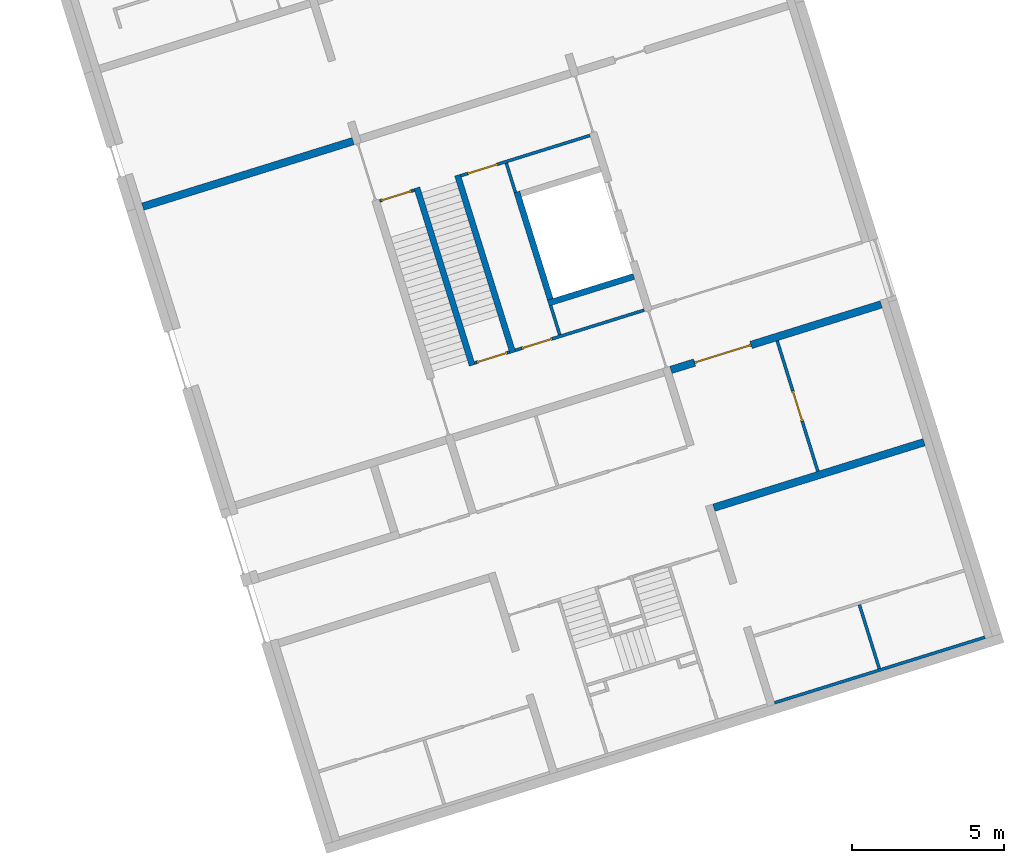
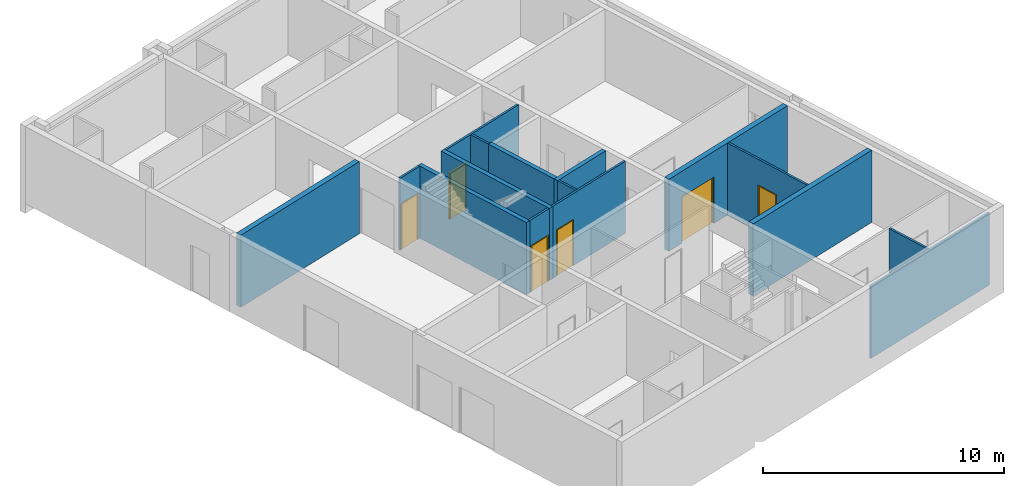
# One storey, part 3 of 10: 16 walls, 6 doors, 10 openings.
"""IFC4 building model written with IfcOpenShell, lengths in metres."""

import ifcopenshell
import ifcopenshell.guid

model = None  # the IFC model being written
_history = None  # IfcOwnerHistory: only IFC2X3 demands one
_inside = {}  # id of a spatial element -> (the spatial element, [elements in it])
_under = {}  # id of a project, library or spatial element -> (it, [spatial elements below it])
_declared = {}  # id of a project -> (the project, [libraries it declares])
_typed = {}  # id of a type object -> (the type object, [elements of that type])
_made_of = {}  # id of a material, layer set ... -> (it, [elements and type objects made of it])


def new_model(schema):
    """Start an empty IFC model of exactly this schema.

    Asked for "IFC4X3", IfcOpenShell would pick the latest addendum, in which some entities
    have other attributes; the version numbers below select the first issue.
    IFC2X3 requires an IfcOwnerHistory on every rooted entity: one is made here for all.
    """
    global model, _history
    if schema == "IFC4X3":
        model = ifcopenshell.file(schema_version=(4, 3, 0, 0))
    else:
        model = ifcopenshell.file(schema=schema)
    _inside.clear()
    _under.clear()
    _declared.clear()
    _typed.clear()
    _made_of.clear()
    _history = None
    if model.schema == "IFC2X3":
        org = make("IfcOrganization", Name="unknown")
        user = make(
            "IfcPersonAndOrganization",
            ThePerson=make("IfcPerson", FamilyName="unknown"),
            TheOrganization=org,
        )
        app = make(
            "IfcApplication",
            ApplicationDeveloper=org,
            Version="unknown",
            ApplicationFullName="unknown",
            ApplicationIdentifier="unknown",
        )
        _history = make(
            "IfcOwnerHistory",
            OwningUser=user,
            OwningApplication=app,
            ChangeAction="ADDED",
            CreationDate=0,
        )
    return model


def make(cls, **values):
    """One entity of the class cls with the attributes given. An attribute that is None is left unset."""
    return model.create_entity(
        cls, **{name: value for name, value in values.items() if value is not None}
    )


def entity(cls, *values):
    """Any entity or typed value of the class cls, its attributes in the order of the schema. None: left unset."""
    e = model.create_entity(cls)
    for i, value in enumerate(values):
        if value is not None:
            e[i] = value
    return e


def rooted(cls, **values):
    """An entity with a GlobalId (a new one), such as an element, a storey or a relation."""
    return make(cls, GlobalId=ifcopenshell.guid.new(), OwnerHistory=_history, **values)


def si_unit(unit_type, name, prefix=None):
    """IfcSIUnit, for example si_unit("LENGTHUNIT", "METRE", prefix="MILLI")."""
    return make("IfcSIUnit", UnitType=unit_type, Prefix=prefix, Name=name)


def converted_unit(unit_type, name, factor, base, dimensions=None, offset=None):
    """IfcConversionBasedUnit, such as the inch: factor (a typed value) times the base unit."""
    return make(
        "IfcConversionBasedUnit"
        if offset is None
        else "IfcConversionBasedUnitWithOffset",
        ConversionOffset=offset,
        Dimensions=None
        if dimensions is None
        else entity("IfcDimensionalExponents", *dimensions),
        UnitType=unit_type,
        Name=name,
        ConversionFactor=make(
            "IfcMeasureWithUnit", ValueComponent=factor, UnitComponent=base
        ),
    )


def assignment(units):
    """IfcUnitAssignment: the units of a project."""
    return None if units is None else make("IfcUnitAssignment", Units=units)


def point(xyz):
    """IfcCartesianPoint."""
    return None if xyz is None else make("IfcCartesianPoint", Coordinates=xyz)


def direction(xyz):
    """IfcDirection."""
    return None if xyz is None else make("IfcDirection", DirectionRatios=xyz)


def frame(location, z_axis=None, x_axis=None):
    """IfcAxis2Placement3D, a coordinate frame: its origin and axes. An axis left out is left unset."""
    return make(
        "IfcAxis2Placement3D",
        Location=point(location),
        Axis=direction(z_axis),
        RefDirection=direction(x_axis),
    )


def origin():
    """The frame at (0, 0, 0) with its axes left unset."""
    return frame((0.0, 0.0, 0.0))


def place(relative_to, where):
    """IfcLocalPlacement: puts the frame where relative to a parent placement (None: the world)."""
    return make(
        "IfcLocalPlacement", PlacementRelTo=relative_to, RelativePlacement=where
    )


def context(
    kind, dimensions, precision=None, world=None, true_north=None, identifier=None
):
    """IfcGeometricRepresentationContext, for example the 3D "Model" context."""
    return make(
        "IfcGeometricRepresentationContext",
        ContextIdentifier=identifier,
        ContextType=kind,
        CoordinateSpaceDimension=dimensions,
        Precision=precision,
        WorldCoordinateSystem=world,
        TrueNorth=true_north,
    )


def subcontext(parent, identifier, kind, view, scale=None):
    """IfcGeometricRepresentationSubContext, for example "Body" below "Model"."""
    return make(
        "IfcGeometricRepresentationSubContext",
        ContextIdentifier=identifier,
        ContextType=kind,
        ParentContext=parent,
        TargetScale=scale,
        TargetView=view,
    )


def project(units=None, contexts=None):
    """IfcProject with its units and contexts."""
    return rooted(
        "IfcProject",
        Name="project",
        RepresentationContexts=contexts,
        UnitsInContext=assignment(units),
    )


def spatial(cls, under=None, at=None, **own):
    """A site, building, storey or space (cls), placed at a placement, below another one or the project."""
    s = rooted(cls, ObjectPlacement=at, **own)
    if under is not None:
        _under.setdefault(under.id(), (under, []))[1].append(s)
    return s


def point_list(points):
    """IfcCartesianPointList2D or 3D."""
    cls = (
        "IfcCartesianPointList2D" if len(points[0]) == 2 else "IfcCartesianPointList3D"
    )
    return make(cls, CoordList=points)


def indexed_curve(points, segments=None, self_intersect=None):
    """IfcIndexedPolyCurve: lines and arcs through numbered points (the first is 1)."""
    return make(
        "IfcIndexedPolyCurve",
        Points=point_list(points),
        Segments=segments,
        SelfIntersect=self_intersect,
    )


def outline(outer, holes=None, kind="AREA"):
    """IfcArbitraryClosedProfileDef: a profile drawn as a closed curve; with holes, ...WithVoids."""
    if holes is None:
        return make("IfcArbitraryClosedProfileDef", ProfileType=kind, OuterCurve=outer)
    return make(
        "IfcArbitraryProfileDefWithVoids",
        ProfileType=kind,
        OuterCurve=outer,
        InnerCurves=holes,
    )


def extrude(swept, where, along, depth):
    """IfcExtrudedAreaSolid: the profile swept, set in the frame where, extruded along a direction by depth."""
    return make(
        "IfcExtrudedAreaSolid",
        SweptArea=swept,
        Position=where,
        ExtrudedDirection=direction(along),
        Depth=depth,
    )


def polygons(points, faces, closed=None, point_numbers=None):
    """IfcPolygonalFaceSet: a face is its outer loop, then its inner loops; points numbered from 1."""
    made = []
    for loops in faces:
        if len(loops) == 1:
            made.append(make("IfcIndexedPolygonalFace", CoordIndex=loops[0]))
        else:
            made.append(
                make(
                    "IfcIndexedPolygonalFaceWithVoids",
                    CoordIndex=loops[0],
                    InnerCoordIndices=loops[1:],
                )
            )
    return make(
        "IfcPolygonalFaceSet",
        Coordinates=point_list(points),
        Closed=closed,
        Faces=made,
        PnIndex=point_numbers,
    )


def shape(context_of_items, identifier, shape_type, items):
    """IfcShapeRepresentation: the items that make up one representation, for example the "Body"."""
    return make(
        "IfcShapeRepresentation",
        ContextOfItems=context_of_items,
        RepresentationIdentifier=identifier,
        RepresentationType=shape_type,
        Items=items,
    )


def source(mapping_origin, context_of_items, identifier, shape_type, items):
    """IfcRepresentationMap: a shape defined once, which mapped items show again and again."""
    return make(
        "IfcRepresentationMap",
        MappingOrigin=mapping_origin,
        MappedRepresentation=shape(context_of_items, identifier, shape_type, items),
    )


def transform(
    local_origin,
    x_axis=None,
    y_axis=None,
    z_axis=None,
    scale=None,
    scale2=None,
    scale3=None,
    uniform=True,
):
    """IfcCartesianTransformationOperator3D, or its non-uniform kind. x_axis, y_axis, z_axis: its Axis1, 2, 3."""
    if uniform:
        return make(
            "IfcCartesianTransformationOperator3D",
            Axis1=direction(x_axis),
            Axis2=direction(y_axis),
            LocalOrigin=point(local_origin),
            Scale=scale,
            Axis3=direction(z_axis),
        )
    return make(
        "IfcCartesianTransformationOperator3DnonUniform",
        Axis1=direction(x_axis),
        Axis2=direction(y_axis),
        LocalOrigin=point(local_origin),
        Scale=scale,
        Axis3=direction(z_axis),
        Scale2=scale2,
        Scale3=scale3,
    )


def mapped(mapping_source, mapping_target):
    """IfcMappedItem: shows the shape of a source again, moved by a transform."""
    return make(
        "IfcMappedItem", MappingSource=mapping_source, MappingTarget=mapping_target
    )


def material(Name=None, Category=None):
    """IfcMaterial."""
    return make("IfcMaterial", Name=Name, Category=Category)


def constituent(of_material, Name=None, Category=None, fraction=None):
    """IfcMaterialConstituent: one of the materials an element consists of."""
    return make(
        "IfcMaterialConstituent",
        Name=Name,
        Material=of_material,
        Fraction=fraction,
        Category=Category,
    )


def constituent_set(constituents=None, Name=None):
    """IfcMaterialConstituentSet."""
    return make(
        "IfcMaterialConstituentSet", Name=Name, MaterialConstituents=constituents
    )


def made_of(thing, what):
    """Note that an element or type object is made of a material, layer set ...; save() writes the relation."""
    if what is not None:
        _made_of.setdefault(what.id(), (what, []))[1].append(thing)
    return thing


def type_object(cls, material=None, **own):
    """A type object (cls), such as IfcWallType, which elements share."""
    return made_of(rooted(cls, **own), material)


def type_shapes(of_type, sources):
    """Give a type object the sources (RepresentationMaps) that its elements show as mapped items."""
    of_type.RepresentationMaps = sources


def element(
    cls,
    number,
    at=None,
    inside=None,
    cuts=None,
    type_object=None,
    material=None,
    context=None,
    identifier="Body",
    shape_type=None,
    held_by="IfcProductDefinitionShape",
    body=None,
    shapes=None,
    **own,
):
    """One element of the class cls, such as IfcWall. Its Tag is "e" and its number.

    at: its placement. inside: the storey or other place that contains it. cuts: it is an
    opening in that element (IfcRelVoidsElement). A single representation is given by context,
    identifier, shape_type and body (its items); several are given by shapes. held_by: the class
    of the entity that holds the representations. save() writes the other relations.
    """
    e = rooted(cls, Tag="e%d" % number, ObjectPlacement=at, **own)
    if body is not None:
        shapes = [shape(context, identifier, shape_type, body)]
    if shapes is not None:
        e.Representation = make(held_by, Representations=shapes)
    if inside is not None:
        _inside.setdefault(inside.id(), (inside, []))[1].append(e)
    if cuts is not None:
        rooted(
            "IfcRelVoidsElement", RelatingBuildingElement=cuts, RelatedOpeningElement=e
        )
    if type_object is not None:
        _typed.setdefault(type_object.id(), (type_object, []))[1].append(e)
    return made_of(e, material)


def fill(opening, filler):
    """IfcRelFillsElement: the door or window that sits in an opening."""
    return rooted(
        "IfcRelFillsElement",
        RelatingOpeningElement=opening,
        RelatedBuildingElement=filler,
    )


def aggregate(whole, parts):
    """IfcRelAggregates: a whole, such as a stair, and the parts it consists of."""
    return rooted("IfcRelAggregates", RelatingObject=whole, RelatedObjects=parts)


def save(model, path):
    """Write the relations noted so far, then the file.

    IfcRelAggregates (storeys below a building ...), IfcRelContainedInSpatialStructure (elements
    in a storey), IfcRelDefinesByType, IfcRelAssociatesMaterial and IfcRelDeclares: one each for
    every whole, place, type object, material and project.
    """
    for whole, parts in _under.values():
        aggregate(whole, parts)
    for where, things in _inside.values():
        rooted(
            "IfcRelContainedInSpatialStructure",
            RelatedElements=things,
            RelatingStructure=where,
        )
    for kind, things in _typed.values():
        rooted("IfcRelDefinesByType", RelatedObjects=things, RelatingType=kind)
    for what, things in _made_of.values():
        rooted("IfcRelAssociatesMaterial", RelatedObjects=things, RelatingMaterial=what)
    for by, libraries in _declared.values():
        rooted("IfcRelDeclares", RelatingContext=by, RelatedDefinitions=libraries)
    model.write(path)


model = new_model("IFC4")

# Units and contexts
model_context = context("Model", 3, precision=1e-05, world=origin(), true_north=direction((6.12323399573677e-17, 1.0)))
body_context = subcontext(model_context, "Body", "Model", "MODEL_VIEW")
ifc_project = project(units=[si_unit("LENGTHUNIT", "METRE"), si_unit("AREAUNIT", "SQUARE_METRE"), converted_unit("PLANEANGLEUNIT", "DEGREE", entity("IfcPlaneAngleMeasure", 0.0174532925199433), si_unit("PLANEANGLEUNIT", "RADIAN"), dimensions=[0, 0, 0, 0, 0, 0, 0]), si_unit("VOLUMEUNIT", "CUBIC_METRE")], contexts=[model_context])

# Site, building, storey
site_placement = place(None, frame((13.1347999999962, 11.9886000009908, 0.0), z_axis=(0.0, 0.0, 1.0), x_axis=(0.954770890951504, 0.297342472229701, 0.0)))
site = spatial("IfcSite", under=ifc_project, at=site_placement, Name="Schiehaven", CompositionType="ELEMENT")
building_placement = place(site_placement, origin())
building = spatial("IfcBuilding", under=site, at=building_placement, Name="VORM huis", CompositionType="ELEMENT")
storey_placement = place(building_placement, origin())
storey = spatial("IfcBuildingStorey", under=building, at=storey_placement, Name="00 begane grond", CompositionType="ELEMENT", Elevation=0.0)

# Walls
ifc_material_1 = material(Name="ntb_ntb_ntb", Category="Miscellaneous")
wall_type_1 = type_object("IfcWallType", Name="Basic Wall:21_WA_gevel_binnenspouwwand 100mm_gen", PredefinedType="STANDARD")
wall_1_placement = place(storey_placement, frame((79.8750000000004, 0.424999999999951, 0.0), z_axis=(0.0, 0.0, 1.0), x_axis=(-1.0, 0.0, 0.0)))
element("IfcWall", 1, at=wall_1_placement, inside=storey, type_object=wall_type_1, material=ifc_material_1, Name="Binnenspouwblad", ObjectType="Wand", PredefinedType="NOTDEFINED", context=body_context, shape_type="SweptSolid", body=[
    extrude(outline(indexed_curve([(7.24999999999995, 0.05), (8.31549082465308e-16, 0.05), (-8.31549082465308e-16, -0.05), (7.24999999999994, -0.05), (7.24999999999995, 0.05)], self_intersect=False)), origin(), (0.0, 0.0, 1.0), 3.65),
])
ifc_material_2 = material(Name="beton_gewapend_prefab-element", Category="Miscellaneous")
wall_type_2 = type_object("IfcWallType", Name="Basic Wall:28_WA_skelet_wand 200mm_gen", PredefinedType="STANDARD")
wall_2_placement = place(storey_placement, frame((72.3750000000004, 15.2000000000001, 0.0), z_axis=(0.0, 0.0, 1.0), x_axis=(-1.0, 0.0, 0.0)))
element("IfcWall", 2, at=wall_2_placement, inside=storey, type_object=wall_type_2, material=ifc_material_2, Name="Constructieve wand", ObjectType="Wand", PredefinedType="NOTDEFINED", context=body_context, shape_type="SweptSolid", body=[
    extrude(outline(indexed_curve([(2.95000000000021, 0.100000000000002), (3.51397851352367e-16, 0.100000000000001), (-3.51397851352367e-16, -0.100000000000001), (2.95000000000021, -0.100000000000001), (2.95000000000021, 0.100000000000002)], self_intersect=False)), origin(), (0.0, 0.0, 1.0), 3.65),
])
wall_3_placement = place(storey_placement, frame((69.5250000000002, 15.3, 0.0), z_axis=(0.0, 0.0, 1.0), x_axis=(0.0, 1.0, 0.0)))
element("IfcWall", 3, at=wall_3_placement, inside=storey, type_object=wall_type_2, material=ifc_material_2, Name="Constructieve wand", ObjectType="Wand", PredefinedType="NOTDEFINED", context=body_context, shape_type="SweptSolid", body=[
    extrude(outline(indexed_curve([(3.7, 0.100000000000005), (-3.3799899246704e-16, 0.100000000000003), (3.3799899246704e-16, -0.100000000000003), (3.7, -0.100000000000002), (3.7, 0.100000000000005)], self_intersect=False)), origin(), (0.0, 0.0, 1.0), 3.65),
])
wall_4_placement = place(storey_placement, frame((67.8250000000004, 13.9899999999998, 0.0), z_axis=(0.0, 0.0, 1.0), x_axis=(0.0, 1.0, 0.0)))
element("IfcWall", 4, at=wall_4_placement, inside=storey, type_object=wall_type_2, material=ifc_material_2, Name="Constructieve wand", ObjectType="Wand", PredefinedType="NOTDEFINED", context=body_context, shape_type="SweptSolid", body=[
    extrude(outline(indexed_curve([(6.12000000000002, 0.100000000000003), (5.66205034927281e-16, 0.100000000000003), (-5.66205034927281e-16, -0.100000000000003), (6.12000000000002, -0.100000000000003), (6.12000000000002, 0.100000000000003)], self_intersect=False)), origin(), (0.0, 0.0, 1.0), 3.65),
])
wall_5_placement = place(storey_placement, frame((66.4250000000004, 13.9899999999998, 0.0), z_axis=(0.0, 0.0, 1.0), x_axis=(0.0, 1.0, 0.0)))
element("IfcWall", 5, at=wall_5_placement, inside=storey, type_object=wall_type_2, material=ifc_material_2, Name="Constructieve wand", ObjectType="Wand", PredefinedType="NOTDEFINED", context=body_context, shape_type="SweptSolid", body=[
    extrude(outline(indexed_curve([(6.12000000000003, 0.100000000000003), (7.077562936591e-16, 0.100000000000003), (-7.077562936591e-16, -0.100000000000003), (6.12000000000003, -0.100000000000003), (6.12000000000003, 0.100000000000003)], self_intersect=False)), origin(), (0.0, 0.0, 1.0), 3.65),
])

# Wall, opening, door
wall_type_3 = type_object("IfcWallType", Name="Basic Wall:22_WA_afbouw_binnenwand 250mm_gen", PredefinedType="STANDARD")
wall_6_placement = place(storey_placement, frame((72.6250000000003, 11.8999999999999, 0.0)))
wall_6 = element("IfcWall", 6, at=wall_6_placement, inside=storey, type_object=wall_type_3, material=ifc_material_1, Name="Binnenwand", ObjectType="Wand", PredefinedType="NOTDEFINED", context=body_context, shape_type="Tessellation", body=[
    polygons([(2.76249999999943, -0.124999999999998, 2.34999999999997), (2.76249999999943, -0.124999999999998, 0.0), (3.57499999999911, -0.124999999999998, 0.0), (3.67499999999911, -0.124999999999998, 0.0), (7.24999999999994, -0.124999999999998, 0.0), (7.24999999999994, -0.124999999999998, 3.65), (3.67499999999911, -0.124999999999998, 3.65), (3.57499999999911, -0.124999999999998, 3.65), (-1.10866126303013e-14, -0.125, 3.65), (-1.10866126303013e-14, -0.125, 0.0), (0.812499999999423, -0.125, 0.0), (0.812499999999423, -0.125, 2.34999999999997), (7.24999999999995, 0.125000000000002, 0.0), (2.76249999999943, 0.125000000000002, 0.0), (2.76249999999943, 0.125000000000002, 2.34999999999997), (0.812499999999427, 0.125, 2.34999999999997), (0.812499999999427, 0.125, 0.0), (-7.45954118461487e-15, 0.125, 0.0), (-7.45954118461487e-15, 0.125, 3.65), (7.24999999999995, 0.125000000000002, 3.65)], [[[1, 2, 3, 4, 5, 6, 7, 8, 9, 10, 11, 12]], [[13, 14, 15, 16, 17, 18, 19, 20]], [[11, 10, 18, 17]], [[6, 5, 13, 20]], [[9, 8, 7, 6, 20, 19]], [[10, 9, 19, 18]], [[17, 16, 12, 11]], [[15, 14, 2, 1]], [[16, 15, 1, 12]], [[5, 4, 3, 2, 14, 13]]], closed=True),
])
opening_1_placement = place(wall_6_placement, frame((0.812499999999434, -0.124999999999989, 0.0)))
opening_1 = element("IfcOpeningElement", 7, at=opening_1_placement, cuts=wall_6, Name="Vluchtdeur", PredefinedType="OPENING", context=body_context, shape_type="SweptSolid", body=[
    extrude(outline(indexed_curve([(2.34999999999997, 0.0), (2.34999999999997, 1.95000000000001), (0.0, 1.95), (0.0, 0.0), (2.34999999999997, 0.0)], self_intersect=False)), frame((0.0, 0.0, 0.0), z_axis=(0.0, 1.0, 0.0), x_axis=(0.0, 0.0, 1.0)), (0.0, 0.0, 1.0), 0.25),
])
ifc_material_3 = material(Name="PD_a_binnenwandopeningen", Category="Miscellaneous")
ifc_constituent_1 = constituent(ifc_material_3, Name="PD_a_binnenwandopeningen", Category="Miscellaneous")
ifc_material_4 = material(Name="metaal_aluminium_ntb", Category="Miscellaneous")
ifc_constituent_2 = constituent(ifc_material_4, Name="metaal_aluminium_ntb", Category="Miscellaneous")
ifc_constituent_set_1 = constituent_set(constituents=[ifc_constituent_1, ifc_constituent_2])
ifc_constituent_3 = constituent(ifc_material_3, Name="PD_a_binnenwandopeningen", Category="Miscellaneous")
ifc_constituent_4 = constituent(ifc_material_4, Name="Panel", Category="Miscellaneous")
ifc_constituent_set_2 = constituent_set(constituents=[ifc_constituent_3, ifc_constituent_4])
door_type_1 = type_object("IfcDoorType", Name="32_DO_binnendeur dubbel:binnendeur zelfsluitend 30min", OperationType="NOTDEFINED", PredefinedType="DOOR", material=ifc_constituent_set_2)
shared_shape_1 = source(origin(), body_context, "Body", "SweptSolid", [
    extrude(outline(indexed_curve([(0.925, -1.16249999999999), (0.975, -1.16249999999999), (0.975, 1.18749999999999), (-0.975, 1.18749999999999), (-0.975, -1.16249999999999), (-0.925, -1.16249999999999), (-0.925, 1.13749999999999), (0.925, 1.13749999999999), (0.925, -1.16249999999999)], self_intersect=False)), frame((0.975000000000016, 0.175000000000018, 1.16249999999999), z_axis=(0.0, -1.0, 0.0), x_axis=(1.0, 0.0, 0.0)), (0.0, 0.0, 1.0), 0.1),
    extrude(outline(indexed_curve([(-0.462499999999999, -0.025), (0.462499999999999, -0.025), (0.462499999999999, 0.025), (-0.462499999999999, 0.025), (-0.462499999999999, -0.025)], self_intersect=False)), frame((0.512500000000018, 0.124999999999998, 0.0)), (0.0, 0.0, 1.0), 2.29999999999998),
    extrude(outline(indexed_curve([(-0.4625, -0.025), (0.4625, -0.025), (0.4625, 0.025), (-0.4625, 0.025), (-0.4625, -0.025)], self_intersect=False)), frame((1.43750000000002, 0.125000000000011, 0.0)), (0.0, 0.0, 1.0), 2.29999999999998),
])
type_shapes(door_type_1, [shared_shape_1])
door_1_placement = place(opening_1_placement, origin())
door_1 = element("IfcDoor", 8, at=door_1_placement, inside=storey, type_object=door_type_1, material=ifc_constituent_set_1, Name="Vluchtdeur", ObjectType="Deur", OperationType="NOTDEFINED", OverallHeight=2.34999999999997, OverallWidth=1.95000000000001, PredefinedType="DOOR", context=body_context, shape_type="MappedRepresentation", body=[
    mapped(shared_shape_1, transform((0.0, 0.0, 0.0), scale=1.0)),
])
fill(opening_1, door_1)

# Walls
wall_7_placement = place(storey_placement, frame((64.8750000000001, 22.1999999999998, 0.0), z_axis=(0.0, 0.0, 1.0), x_axis=(-1.0, 0.0, 0.0)))
element("IfcWall", 9, at=wall_7_placement, inside=storey, type_object=wall_type_3, material=ifc_material_1, Name="Binnenwand", ObjectType="Wand", PredefinedType="NOTDEFINED", context=body_context, shape_type="SweptSolid", body=[
    extrude(outline(indexed_curve([(7.24999999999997, 0.125000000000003), (2.22995564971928e-15, 0.125000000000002), (-2.22995564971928e-15, -0.125000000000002), (7.24999999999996, -0.125000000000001), (7.24999999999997, 0.125000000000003)], self_intersect=False)), origin(), (0.0, 0.0, 1.0), 3.65),
])
wall_8_placement = place(storey_placement, frame((79.8750000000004, 7.15000000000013, 0.0), z_axis=(0.0, 0.0, 1.0), x_axis=(-1.0, 0.0, 0.0)))
element("IfcWall", 10, at=wall_8_placement, inside=storey, type_object=wall_type_3, material=ifc_material_1, Name="Binnenwand", ObjectType="Wand", PredefinedType="NOTDEFINED", context=body_context, shape_type="SweptSolid", body=[
    extrude(outline(indexed_curve([(7.24999999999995, 0.125), (2.64740926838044e-16, 0.125), (-2.64740926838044e-16, -0.125), (7.24999999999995, -0.125), (7.24999999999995, 0.125)], self_intersect=False)), origin(), (0.0, 0.0, 1.0), 3.65),
])

# Wall, openings, door
wall_type_4 = type_object("IfcWallType", Name="Basic Wall:22_WA_afbouw_binnenwand 100mm_gen", PredefinedType="STANDARD")
wall_9_placement = place(storey_placement, frame((66.5250000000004, 14.0399999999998, 0.0)))
wall_9 = element("IfcWall", 11, at=wall_9_placement, inside=storey, type_object=wall_type_4, material=ifc_material_1, Name="Binnenwand", ObjectType="Wand", PredefinedType="NOTDEFINED", context=body_context, shape_type="Tessellation", body=[
    polygons([(-2.16573425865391e-16, -0.0499999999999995, 0.0), (0.0749999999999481, -0.0499999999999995, 0.0), (0.0749999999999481, -0.0499999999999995, 2.34999999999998), (1.12499999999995, -0.0499999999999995, 2.34999999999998), (1.12499999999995, -0.0499999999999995, 0.0), (1.2, -0.0499999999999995, 0.0), (1.2, -0.0499999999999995, 3.65), (-2.16573425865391e-16, -0.0499999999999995, 3.65), (0.0749999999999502, 0.0499999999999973, 2.34999999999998), (0.0749999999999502, 0.0499999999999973, 0.0), (1.94916083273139e-15, 0.0499999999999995, 0.0), (1.94916083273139e-15, 0.0499999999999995, 3.65), (1.20000000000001, 0.0499999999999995, 3.65), (1.20000000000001, 0.0499999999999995, 0.0), (1.12499999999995, 0.0499999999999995, 0.0), (1.12499999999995, 0.0499999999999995, 2.34999999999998)], [[[1, 2, 3, 4, 5, 6, 7, 8]], [[9, 10, 11, 12, 13, 14, 15, 16]], [[11, 10, 2, 1]], [[7, 6, 14, 13]], [[8, 7, 13, 12]], [[1, 8, 12, 11]], [[5, 4, 16, 15]], [[3, 2, 10, 9]], [[4, 3, 9, 16]], [[15, 14, 6, 5]]], closed=True),
])
opening_2_placement = place(wall_9_placement, frame((1.12499999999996, 0.0500000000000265, 0.0)))
opening_2 = element("IfcOpeningElement", 12, at=opening_2_placement, cuts=wall_9, Name="Vluchtdeur", PredefinedType="OPENING", context=body_context, shape_type="SweptSolid", body=[
    extrude(outline(indexed_curve([(2.34999999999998, 2.34520243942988e-29), (2.34999999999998, 1.05), (0.0, 1.05), (0.0, 2.34520243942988e-29), (2.34999999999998, 2.34520243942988e-29)], self_intersect=False)), frame((0.0, 0.0, 0.0), z_axis=(0.0, -1.0, 0.0), x_axis=(0.0, 0.0, 1.0)), (0.0, 0.0, 1.0), 0.1),
])
opening_3_placement = place(wall_9_placement, frame((-66.5250000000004, -14.0399999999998, 0.0)))
element("IfcOpeningElement", 13, at=opening_3_placement, cuts=wall_9, Name="Vluchtdeur", PredefinedType="OPENING", context=body_context, shape_type="SweptSolid", body=[
    extrude(outline(indexed_curve([(-1.17499999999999, -0.525000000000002), (1.17499999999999, -0.525000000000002), (1.17499999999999, 0.525000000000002), (-1.17499999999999, 0.525000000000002), (-1.17499999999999, -0.525000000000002)], self_intersect=False)), frame((67.1250000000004, 12.5659999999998, 1.17499999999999), z_axis=(0.0, 1.0, 0.0), x_axis=(0.0, 0.0, -1.0)), (0.0, 0.0, 1.0), 3.048),
])
ifc_constituent_5 = constituent(ifc_material_3, Name="PD_a_binnenwandopeningen", Category="Miscellaneous")
ifc_constituent_6 = constituent(ifc_material_4, Name="metaal_aluminium_ntb", Category="Miscellaneous")
ifc_constituent_set_3 = constituent_set(constituents=[ifc_constituent_5, ifc_constituent_6])
ifc_constituent_7 = constituent(ifc_material_3, Name="PD_a_binnenwandopeningen", Category="Miscellaneous")
ifc_constituent_8 = constituent(ifc_material_4, Name="Panel", Category="Miscellaneous")
ifc_constituent_set_4 = constituent_set(constituents=[ifc_constituent_7, ifc_constituent_8])
door_type_2 = type_object("IfcDoorType", Name="32_DO_binnendeur enkel:binnendeur zelfsluitend 30min", OperationType="NOTDEFINED", PredefinedType="DOOR", material=ifc_constituent_set_4)
shared_shape_2 = source(origin(), body_context, "Body", "SweptSolid", [
    extrude(outline(indexed_curve([(0.475, -1.16249999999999), (0.525, -1.16249999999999), (0.525, 1.18749999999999), (-0.525, 1.18749999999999), (-0.525, -1.16249999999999), (-0.475, -1.16249999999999), (-0.475, 1.13749999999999), (0.475, 1.13749999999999), (0.475, -1.16249999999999)], self_intersect=False)), frame((0.525000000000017, 0.100000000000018, 1.16249999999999), z_axis=(0.0, -1.0, 0.0), x_axis=(1.0, 0.0, 0.0)), (0.0, 0.0, 1.0), 0.1),
    extrude(outline(indexed_curve([(-0.475, -0.025), (0.475, -0.025), (0.475, 0.025), (-0.475, 0.025), (-0.475, -0.025)], self_intersect=False)), frame((0.525000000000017, 0.0499999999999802, 0.0)), (0.0, 0.0, 1.0), 2.29999999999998),
])
type_shapes(door_type_2, [shared_shape_2])
door_2_placement = place(opening_2_placement, frame((0.0, 0.0, 0.0), z_axis=(0.0, 0.0, 1.0), x_axis=(-1.0, 0.0, 0.0)))
door_2 = element("IfcDoor", 14, at=door_2_placement, inside=storey, type_object=door_type_2, material=ifc_constituent_set_3, Name="Vluchtdeur", ObjectType="Deur", OperationType="NOTDEFINED", OverallHeight=2.34999999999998, OverallWidth=1.05, PredefinedType="DOOR", context=body_context, shape_type="MappedRepresentation", body=[
    mapped(shared_shape_2, transform((0.0, 0.0, 0.0), scale=1.0)),
])
fill(opening_2, door_2)

# Wall
wall_10_placement = place(storey_placement, frame((69.4750000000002, 14.0899999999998, 0.0), z_axis=(0.0, 0.0, 1.0), x_axis=(0.0, 1.0, 0.0)))
element("IfcWall", 15, at=wall_10_placement, inside=storey, type_object=wall_type_4, material=ifc_material_1, Name="Binnenwand", ObjectType="Wand", PredefinedType="NOTDEFINED", context=body_context, shape_type="SweptSolid", body=[
    extrude(outline(indexed_curve([(1.01, 0.0499999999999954), (9.53176740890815e-16, 0.0499999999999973), (-9.53176740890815e-16, -0.0499999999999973), (1.01, -0.0499999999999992), (1.01, 0.0499999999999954)], self_intersect=False)), origin(), (0.0, 0.0, 1.0), 3.65),
])

# Wall, openings, door
wall_11_placement = place(storey_placement, frame((65.1250000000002, 20.0599999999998, 0.0)))
wall_11 = element("IfcWall", 16, at=wall_11_placement, inside=storey, type_object=wall_type_4, material=ifc_material_1, Name="Binnenwand", ObjectType="Wand", PredefinedType="NOTDEFINED", context=body_context, shape_type="Tessellation", body=[
    polygons([(-8.55465032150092e-15, -0.0499999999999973, 0.0), (0.0499999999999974, -0.0499999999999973, 0.0), (0.0499999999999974, -0.0499999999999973, 2.34999999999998), (1.1, -0.0499999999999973, 2.34999999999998), (1.1, -0.0499999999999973, 0.0), (1.20000000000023, -0.0499999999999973, 0.0), (1.20000000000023, -0.0499999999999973, 3.65), (-8.55465032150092e-15, -0.0499999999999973, 3.65), (0.0499999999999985, 0.0500000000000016, 2.34999999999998), (0.0499999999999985, 0.0500000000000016, 0.0), (-7.47178319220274e-15, 0.0500000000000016, 0.0), (-7.47178319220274e-15, 0.0500000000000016, 3.65), (1.20000000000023, 0.0500000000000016, 3.65), (1.20000000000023, 0.0500000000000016, 0.0), (1.1, 0.0500000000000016, 0.0), (1.1, 0.0500000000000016, 2.34999999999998)], [[[1, 2, 3, 4, 5, 6, 7, 8]], [[9, 10, 11, 12, 13, 14, 15, 16]], [[11, 10, 2, 1]], [[7, 6, 14, 13]], [[8, 7, 13, 12]], [[1, 8, 12, 11]], [[5, 4, 16, 15]], [[3, 2, 10, 9]], [[4, 3, 9, 16]], [[15, 14, 6, 5]]], closed=True),
])
opening_4_placement = place(wall_11_placement, frame((0.0499999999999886, -0.0499999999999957, 0.0)))
opening_4 = element("IfcOpeningElement", 17, at=opening_4_placement, cuts=wall_11, Name="Vluchtdeur", PredefinedType="OPENING", context=body_context, shape_type="SweptSolid", body=[
    extrude(outline(indexed_curve([(2.34999999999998, 1.05), (0.0, 1.05), (0.0, 2.93150304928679e-29), (2.34999999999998, 2.93150304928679e-29), (2.34999999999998, 1.05)], self_intersect=False)), frame((0.0, 0.0, 0.0), z_axis=(0.0, 1.0, 0.0), x_axis=(0.0, 0.0, 1.0)), (0.0, 0.0, 1.0), 0.1),
])
opening_5_placement = place(wall_11_placement, frame((-65.1250000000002, -20.0599999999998, 0.0)))
element("IfcOpeningElement", 18, at=opening_5_placement, cuts=wall_11, Name="Vluchtdeur", PredefinedType="OPENING", context=body_context, shape_type="SweptSolid", body=[
    extrude(outline(indexed_curve([(-1.17499999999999, -0.525000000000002), (1.17499999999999, -0.525000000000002), (1.17499999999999, 0.525000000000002), (-1.17499999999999, 0.525000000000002), (-1.17499999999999, -0.525000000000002)], self_intersect=False)), frame((65.7000000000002, 18.4859999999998, 1.17499999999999), z_axis=(0.0, 1.0, 0.0), x_axis=(0.0, 0.0, -1.0)), (0.0, 0.0, 1.0), 3.048),
])
ifc_constituent_9 = constituent(ifc_material_3, Name="PD_a_binnenwandopeningen", Category="Miscellaneous")
ifc_constituent_10 = constituent(ifc_material_4, Name="metaal_aluminium_ntb", Category="Miscellaneous")
ifc_constituent_set_5 = constituent_set(constituents=[ifc_constituent_9, ifc_constituent_10])
ifc_constituent_11 = constituent(ifc_material_3, Name="PD_a_binnenwandopeningen", Category="Miscellaneous")
ifc_constituent_12 = constituent(ifc_material_4, Name="Panel", Category="Miscellaneous")
ifc_constituent_set_6 = constituent_set(constituents=[ifc_constituent_11, ifc_constituent_12])
door_type_3 = type_object("IfcDoorType", Name="32_DO_binnendeur enkel:binnendeur zelfsluitend 30min", OperationType="NOTDEFINED", PredefinedType="DOOR", material=ifc_constituent_set_6)
shared_shape_3 = source(origin(), body_context, "Body", "SweptSolid", [
    extrude(outline(indexed_curve([(-1.16249999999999, -0.525000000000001), (1.18749999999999, -0.525), (1.18749999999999, 0.525), (-1.16249999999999, 0.525), (-1.16249999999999, 0.475), (1.13749999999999, 0.475), (1.13749999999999, -0.475), (-1.16249999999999, -0.475), (-1.16249999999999, -0.525000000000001)], self_intersect=False)), frame((0.525000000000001, 0.0, 1.16249999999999), z_axis=(0.0, 1.0, 0.0), x_axis=(0.0, 0.0, 1.0)), (0.0, 0.0, 1.0), 0.1),
    extrude(outline(indexed_curve([(-0.025, -0.475), (0.025, -0.475), (0.025, 0.475), (-0.025, 0.475), (-0.025, -0.475)], self_intersect=False)), frame((0.525000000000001, 0.0499999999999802, 0.0), z_axis=(0.0, 0.0, 1.0), x_axis=(0.0, 1.0, 0.0)), (0.0, 0.0, 1.0), 2.29999999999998),
])
type_shapes(door_type_3, [shared_shape_3])
door_3_placement = place(opening_4_placement, origin())
door_3 = element("IfcDoor", 19, at=door_3_placement, inside=storey, type_object=door_type_3, material=ifc_constituent_set_5, Name="Vluchtdeur", ObjectType="Deur", OperationType="NOTDEFINED", OverallHeight=2.34999999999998, OverallWidth=1.05, PredefinedType="DOOR", context=body_context, shape_type="MappedRepresentation", body=[
    mapped(shared_shape_3, transform((0.0, 0.0, 0.0), scale=1.0)),
])
fill(opening_4, door_3)

# Wall
wall_12_placement = place(storey_placement, frame((69.4750000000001, 20.0099999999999, 0.0), z_axis=(0.0, 0.0, 1.0), x_axis=(0.0, -1.0, 0.0)))
element("IfcWall", 20, at=wall_12_placement, inside=storey, type_object=wall_type_4, material=ifc_material_1, Name="Binnenwand", ObjectType="Wand", PredefinedType="NOTDEFINED", context=body_context, shape_type="SweptSolid", body=[
    extrude(outline(indexed_curve([(1.01, 0.0500000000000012), (6.62332516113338e-16, 0.0499999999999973), (-6.62332516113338e-16, -0.0499999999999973), (1.01, -0.0499999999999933), (1.01, 0.0500000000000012)], self_intersect=False)), origin(), (0.0, 0.0, 1.0), 3.65),
])

# Wall, openings, door
wall_13_placement = place(storey_placement, frame((67.9250000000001, 20.0599999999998, 0.0)))
wall_13 = element("IfcWall", 21, at=wall_13_placement, inside=storey, type_object=wall_type_4, material=ifc_material_1, Name="Binnenwand", ObjectType="Wand", PredefinedType="NOTDEFINED", context=body_context, shape_type="Tessellation", body=[
    polygons([(-1.75205468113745e-16, -0.0499999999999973, 0.0), (0.224999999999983, -0.0499999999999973, 0.0), (0.224999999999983, -0.0499999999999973, 2.34999999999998), (1.27499999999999, -0.0499999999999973, 2.34999999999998), (1.27499999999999, -0.0499999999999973, 0.0), (1.50000000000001, -0.0499999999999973, 0.0), (1.60000000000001, -0.049999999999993, 0.0), (4.45000000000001, -0.0499999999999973, 0.0), (4.45000000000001, -0.0499999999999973, 3.65), (1.60000000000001, -0.049999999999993, 3.65), (1.50000000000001, -0.0499999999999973, 3.65), (-1.75205468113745e-16, -0.0499999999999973, 3.65), (0.224999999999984, 0.0500000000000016, 2.34999999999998), (0.224999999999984, 0.0500000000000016, 0.0), (9.92830985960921e-16, 0.0500000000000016, 0.0), (9.92830985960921e-16, 0.0500000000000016, 3.65), (4.45000000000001, 0.0500000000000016, 3.65), (4.45000000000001, 0.0500000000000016, 0.0), (1.27499999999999, 0.0500000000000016, 0.0), (1.27499999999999, 0.0500000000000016, 2.34999999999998)], [[[1, 2, 3, 4, 5, 6, 7, 8, 9, 10, 11, 12]], [[13, 14, 15, 16, 17, 18, 19, 20]], [[15, 14, 2, 1]], [[9, 8, 18, 17]], [[12, 11, 10, 9, 17, 16]], [[1, 12, 16, 15]], [[4, 3, 13, 20]], [[3, 2, 14, 13]], [[5, 4, 20, 19]], [[19, 18, 8, 7, 6, 5]]], closed=True),
])
opening_6_placement = place(wall_13_placement, frame((0.225000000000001, -0.0500000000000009, 0.0)))
opening_6 = element("IfcOpeningElement", 22, at=opening_6_placement, cuts=wall_13, Name="Vluchtdeur", PredefinedType="OPENING", context=body_context, shape_type="SweptSolid", body=[
    extrude(outline(indexed_curve([(2.34999999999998, 1.05), (0.0, 1.05), (0.0, 4.2095066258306e-29), (2.34999999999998, 4.2095066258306e-29), (2.34999999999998, 1.05)], self_intersect=False)), frame((0.0, 0.0, 0.0), z_axis=(0.0, 1.0, 0.0), x_axis=(0.0, 0.0, 1.0)), (0.0, 0.0, 1.0), 0.1),
])
opening_7_placement = place(wall_13_placement, frame((-67.9250000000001, -20.0599999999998, 0.0)))
element("IfcOpeningElement", 23, at=opening_7_placement, cuts=wall_13, Name="Vluchtdeur", PredefinedType="OPENING", context=body_context, shape_type="SweptSolid", body=[
    extrude(outline(indexed_curve([(-1.17499999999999, -0.525000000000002), (1.17499999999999, -0.525000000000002), (1.17499999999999, 0.525000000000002), (-1.17499999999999, 0.525000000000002), (-1.17499999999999, -0.525000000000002)], self_intersect=False)), frame((68.6750000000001, 18.4859999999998, 1.17499999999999), z_axis=(0.0, 1.0, 0.0), x_axis=(0.0, 0.0, -1.0)), (0.0, 0.0, 1.0), 3.048),
])
ifc_constituent_13 = constituent(ifc_material_3, Name="PD_a_binnenwandopeningen", Category="Miscellaneous")
ifc_constituent_14 = constituent(ifc_material_4, Name="metaal_aluminium_ntb", Category="Miscellaneous")
ifc_constituent_set_7 = constituent_set(constituents=[ifc_constituent_13, ifc_constituent_14])
door_4_placement = place(opening_6_placement, origin())
door_4 = element("IfcDoor", 24, at=door_4_placement, inside=storey, type_object=door_type_3, material=ifc_constituent_set_7, Name="Vluchtdeur", ObjectType="Deur", OperationType="NOTDEFINED", OverallHeight=2.34999999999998, OverallWidth=1.05, PredefinedType="DOOR", context=body_context, shape_type="MappedRepresentation", body=[
    mapped(shared_shape_3, transform((0.0, 0.0, 0.0), scale=1.0)),
])
fill(opening_6, door_4)

wall_14_placement = place(storey_placement, frame((67.9250000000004, 14.0399999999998, 0.0)))
wall_14 = element("IfcWall", 25, at=wall_14_placement, inside=storey, type_object=wall_type_4, material=ifc_material_1, Name="Binnenwand", ObjectType="Wand", PredefinedType="NOTDEFINED", context=body_context, shape_type="Tessellation", body=[
    polygons([(8.76027340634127e-17, -0.0500000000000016, 0.0), (0.22499999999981, -0.0499999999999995, 0.0), (0.22499999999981, -0.0499999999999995, 2.34999999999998), (1.27499999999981, -0.0500000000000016, 2.34999999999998), (1.27499999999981, -0.0500000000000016, 0.0), (4.44999999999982, -0.0499999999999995, 0.0), (4.44999999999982, -0.0499999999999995, 3.65), (8.76027340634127e-17, -0.0500000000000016, 3.65), (0.224999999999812, 0.0499999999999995, 2.34999999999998), (0.224999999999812, 0.0499999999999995, 0.0), (2.13166652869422e-15, 0.0499999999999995, 0.0), (2.13166652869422e-15, 0.0499999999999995, 3.65), (1.49999999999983, 0.0499999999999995, 3.65), (1.59999999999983, 0.0499999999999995, 3.65), (4.44999999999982, 0.0499999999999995, 3.65), (4.44999999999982, 0.0499999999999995, 0.0), (1.59999999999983, 0.0499999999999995, 0.0), (1.49999999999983, 0.0499999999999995, 0.0), (1.27499999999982, 0.0499999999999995, 0.0), (1.27499999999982, 0.0499999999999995, 2.34999999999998)], [[[1, 2, 3, 4, 5, 6, 7, 8]], [[9, 10, 11, 12, 13, 14, 15, 16, 17, 18, 19, 20]], [[11, 10, 2, 1]], [[7, 6, 16, 15]], [[8, 7, 15, 14, 13, 12]], [[1, 8, 12, 11]], [[4, 3, 9, 20]], [[3, 2, 10, 9]], [[5, 4, 20, 19]], [[19, 18, 17, 16, 6, 5]]], closed=True),
])
opening_8_placement = place(wall_14_placement, frame((1.27499999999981, 0.0500000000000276, 0.0)))
opening_8 = element("IfcOpeningElement", 26, at=opening_8_placement, cuts=wall_14, Name="Vluchtdeur", PredefinedType="OPENING", context=body_context, shape_type="SweptSolid", body=[
    extrude(outline(indexed_curve([(2.34999999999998, 0.0), (2.34999999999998, 1.05), (0.0, 1.05), (0.0, 0.0), (2.34999999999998, 0.0)], self_intersect=False)), frame((0.0, 0.0, 0.0), z_axis=(0.0, -1.0, 0.0), x_axis=(0.0, 0.0, 1.0)), (0.0, 0.0, 1.0), 0.1),
])
opening_9_placement = place(wall_14_placement, frame((-67.9250000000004, -14.0399999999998, 0.0)))
element("IfcOpeningElement", 27, at=opening_9_placement, cuts=wall_14, Name="Vluchtdeur", PredefinedType="OPENING", context=body_context, shape_type="SweptSolid", body=[
    extrude(outline(indexed_curve([(-1.17499999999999, -0.525000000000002), (1.17499999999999, -0.525000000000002), (1.17499999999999, 0.525000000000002), (-1.17499999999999, 0.525000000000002), (-1.17499999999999, -0.525000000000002)], self_intersect=False)), frame((68.6750000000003, 12.5659999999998, 1.17499999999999), z_axis=(0.0, 1.0, 0.0), x_axis=(0.0, 0.0, -1.0)), (0.0, 0.0, 1.0), 3.048),
])
ifc_constituent_15 = constituent(ifc_material_3, Name="PD_a_binnenwandopeningen", Category="Miscellaneous")
ifc_constituent_16 = constituent(ifc_material_4, Name="metaal_aluminium_ntb", Category="Miscellaneous")
ifc_constituent_set_8 = constituent_set(constituents=[ifc_constituent_15, ifc_constituent_16])
door_5_placement = place(opening_8_placement, frame((0.0, 0.0, 0.0), z_axis=(0.0, 0.0, 1.0), x_axis=(-1.0, 0.0, 0.0)))
door_5 = element("IfcDoor", 28, at=door_5_placement, inside=storey, type_object=door_type_2, material=ifc_constituent_set_8, Name="Vluchtdeur", ObjectType="Deur", OperationType="NOTDEFINED", OverallHeight=2.34999999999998, OverallWidth=1.05, PredefinedType="DOOR", context=body_context, shape_type="MappedRepresentation", body=[
    mapped(shared_shape_2, transform((0.0, 0.0, 0.0), scale=1.0)),
])
fill(opening_8, door_5)

# Wall
wall_15_placement = place(storey_placement, frame((76.2499999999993, 0.474999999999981, 0.0), z_axis=(0.0, 0.0, 1.0), x_axis=(0.0, 1.0, 0.0)))
element("IfcWall", 29, at=wall_15_placement, inside=storey, type_object=wall_type_4, material=ifc_material_1, Name="Binnenwand", ObjectType="Wand", PredefinedType="NOTDEFINED", context=body_context, shape_type="SweptSolid", body=[
    extrude(outline(indexed_curve([(2.20000000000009, 0.0499999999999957), (-2.45112657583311e-17, 0.0499999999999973), (2.45112657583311e-17, -0.0499999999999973), (2.20000000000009, -0.0499999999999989), (2.20000000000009, 0.0499999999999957)], self_intersect=False)), origin(), (0.0, 0.0, 1.0), 3.65),
])

# Wall, opening, door
wall_16_placement = place(storey_placement, frame((76.2499999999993, 7.27500000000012, 0.0), z_axis=(0.0, 0.0, 1.0), x_axis=(0.0, 1.0, 0.0)))
wall_16 = element("IfcWall", 30, at=wall_16_placement, inside=storey, type_object=wall_type_4, material=ifc_material_1, Name="Binnenwand", ObjectType="Wand", PredefinedType="NOTDEFINED", context=body_context, shape_type="Tessellation", body=[
    polygons([(1.08286712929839e-15, -0.0500000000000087, 0.0), (1.72499999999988, -0.0500000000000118, 0.0), (1.72499999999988, -0.0500000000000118, 2.34999999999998), (2.77499999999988, -0.0500000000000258, 2.34999999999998), (2.77499999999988, -0.0500000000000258, 0.0), (4.49999999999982, -0.0500000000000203, 0.0), (4.49999999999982, -0.0500000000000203, 3.65), (1.08286712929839e-15, -0.0500000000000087, 3.65), (1.72499999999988, 0.0500000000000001, 2.34999999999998), (1.72499999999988, 0.0500000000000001, 0.0), (1.08286712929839e-15, 0.0499999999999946, 0.0), (1.08286712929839e-15, 0.0499999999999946, 3.65), (4.49999999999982, 0.0499999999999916, 3.65), (4.49999999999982, 0.0499999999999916, 0.0), (2.77499999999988, 0.0499999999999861, 0.0), (2.77499999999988, 0.0499999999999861, 2.34999999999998)], [[[1, 2, 3, 4, 5, 6, 7, 8]], [[9, 10, 11, 12, 13, 14, 15, 16]], [[11, 10, 2, 1]], [[8, 7, 13, 12]], [[1, 8, 12, 11]], [[7, 6, 14, 13]], [[5, 4, 16, 15]], [[3, 2, 10, 9]], [[4, 3, 9, 16]], [[15, 14, 6, 5]]], closed=True),
])
opening_10_placement = place(wall_16_placement, frame((1.72499999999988, -0.0500000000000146, 0.0)))
opening_10 = element("IfcOpeningElement", 31, at=opening_10_placement, cuts=wall_16, Name="Binnendeur", PredefinedType="OPENING", context=body_context, shape_type="SweptSolid", body=[
    extrude(outline(indexed_curve([(2.34999999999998, 1.05), (0.0, 1.05), (0.0, 1.35358391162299e-15), (2.34999999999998, 1.35358391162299e-15), (2.34999999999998, 1.05)], self_intersect=False)), frame((0.0, 0.0, 0.0), z_axis=(0.0, 1.0, 0.0), x_axis=(0.0, 0.0, 1.0)), (0.0, 0.0, 1.0), 0.1),
])
ifc_constituent_17 = constituent(ifc_material_3, Name="PD_a_binnenwandopeningen", Category="Miscellaneous")
ifc_constituent_18 = constituent(ifc_material_4, Name="metaal_aluminium_ntb", Category="Miscellaneous")
ifc_constituent_set_9 = constituent_set(constituents=[ifc_constituent_17, ifc_constituent_18])
ifc_constituent_19 = constituent(ifc_material_3, Name="PD_a_binnenwandopeningen", Category="Miscellaneous")
ifc_constituent_20 = constituent(ifc_material_4, Name="Panel", Category="Miscellaneous")
ifc_constituent_set_10 = constituent_set(constituents=[ifc_constituent_19, ifc_constituent_20])
door_type_4 = type_object("IfcDoorType", Name="32_DO_binnendeur enkel:binnendeur", OperationType="REVOLVING", PredefinedType="DOOR", material=ifc_constituent_set_10)
shared_shape_4 = source(origin(), body_context, "Body", "SweptSolid", [
    extrude(outline(indexed_curve([(-1.16249999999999, -0.525000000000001), (1.18749999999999, -0.525), (1.18749999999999, 0.525), (-1.16249999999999, 0.525), (-1.16249999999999, 0.475), (1.13749999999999, 0.475), (1.13749999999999, -0.475), (-1.16249999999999, -0.475), (-1.16249999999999, -0.525000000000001)], self_intersect=False)), frame((0.525000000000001, 0.0, 1.16249999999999), z_axis=(0.0, 1.0, 0.0), x_axis=(0.0, 0.0, 1.0)), (0.0, 0.0, 1.0), 0.1),
    extrude(outline(indexed_curve([(-0.025, -0.475), (0.025, -0.475), (0.025, 0.475), (-0.025, 0.475), (-0.025, -0.475)], self_intersect=False)), frame((0.525000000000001, 0.0499999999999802, 0.0), z_axis=(0.0, 0.0, 1.0), x_axis=(0.0, 1.0, 0.0)), (0.0, 0.0, 1.0), 2.29999999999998),
])
type_shapes(door_type_4, [shared_shape_4])
door_6_placement = place(opening_10_placement, origin())
door_6 = element("IfcDoor", 32, at=door_6_placement, inside=storey, type_object=door_type_4, material=ifc_constituent_set_9, Name="Binnendeur", ObjectType="Deur", OperationType="REVOLVING", OverallHeight=2.34999999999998, OverallWidth=1.05, PredefinedType="DOOR", context=body_context, shape_type="MappedRepresentation", body=[
    mapped(shared_shape_4, transform((0.0, 0.0, 0.0), scale=1.0)),
])
fill(opening_10, door_6)

save(model, "model.ifc")
